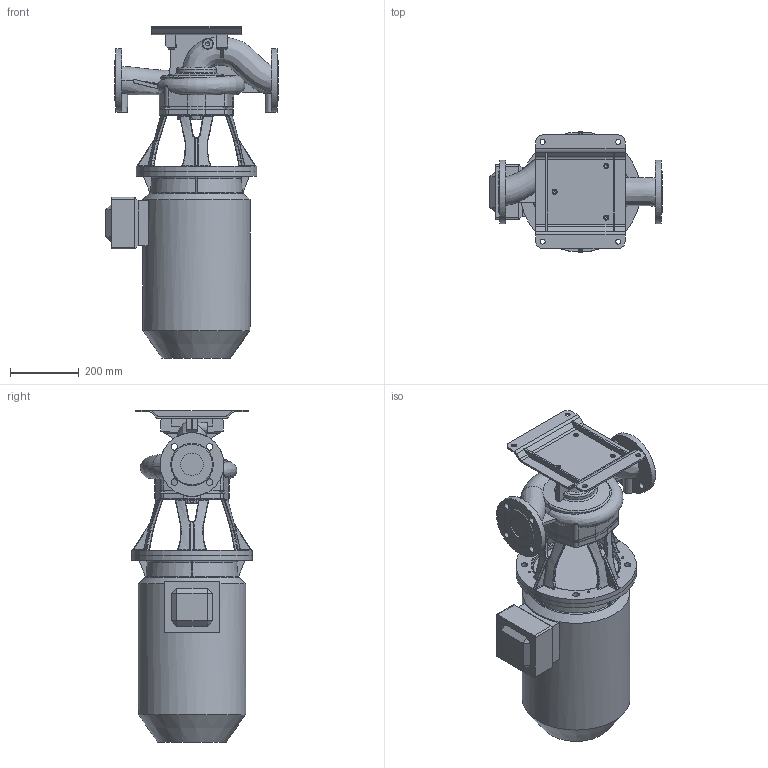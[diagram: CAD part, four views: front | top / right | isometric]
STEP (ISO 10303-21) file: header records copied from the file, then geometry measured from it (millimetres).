
FILE_DESCRIPTION (( 'STEP AP203' ), '1' );
FILE_NAME ('KI65-180_2_11kW.STEP', '2024-03-06T12:22:06', ( '' ), ( '' ), 'SwSTEP 2.0', 'SolidWorks 2023', '' );
FILE_SCHEMA (( 'CONFIG_CONTROL_DESIGN' ));
Length unit declared in the file: millimetre
Products named in the file (10): 230486; 220426; 230034; 440186_solid; 220427; 230415; KI65-180_2_11kW; 230031; 230483; 230033
Assembly tree (10 placements, depth 3):
  KI65-180_2_11kW
    230486
      230483
    220427
      220426
    230034
      230031
      230033  x2
    440186_solid
    230415
Bounding box: 500.5 x 350 x 965.45 mm (x, y, z)
Volume: 52488678.6 mm3; surface area: 1827554.2 mm2
Topology: 7 solids, 7 shells, 1016 faces, 2542 edges, 1523 vertices
Faces by surface type: bspline 305, plane 286, cylinder 252, torus 83, cone 68, sphere 22
Full cylindrical faces by diameter (mm): 5 x4, 6 x3, 6.8 x4, 7 x4, 10.2 x7, 11.8 x4, 14 x4, 14.5 x7, 19 x16, 65 x2, 150 x1, 185 x2, 186 x1, 189 x1, 250 x1, 313 x1, 350 x2
Entity records: 55626 total; most frequent: CARTESIAN_POINT 33527, ORIENTED_EDGE 4738, DIRECTION 3829, EDGE_CURVE 2369, AXIS2_PLACEMENT_3D 1560, VERTEX_POINT 1469, EDGE_LOOP 1186, FACE_OUTER_BOUND 1072
